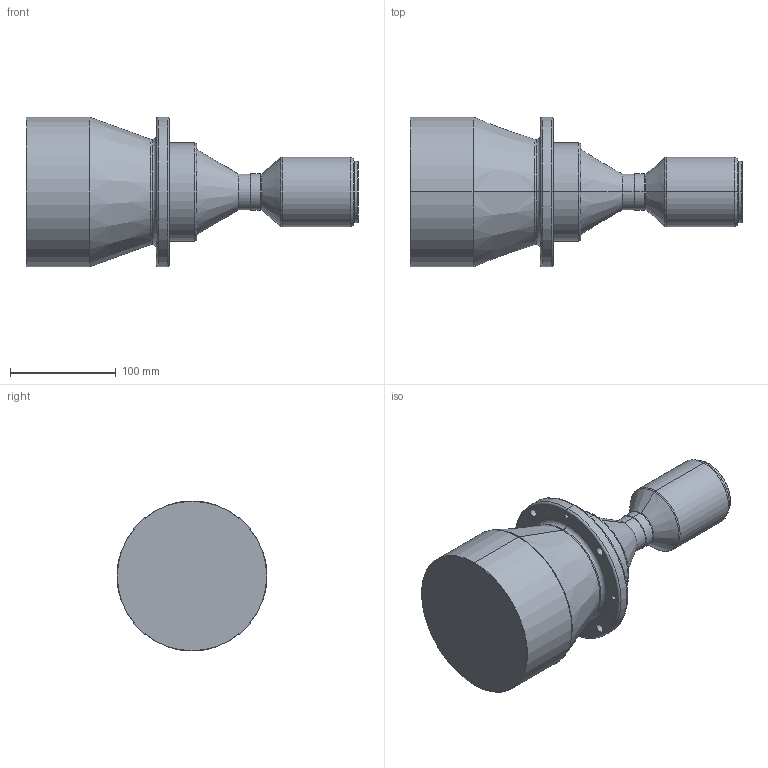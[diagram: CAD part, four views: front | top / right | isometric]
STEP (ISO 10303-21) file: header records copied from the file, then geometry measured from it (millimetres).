
FILE_DESCRIPTION (( 'STEP AP203' ), '1' );
FILE_NAME ('DTCM430H-100H-M58-AL.STEP', '2021-03-15T02:59:21', ( 'Windows User' ), ( 'P R C' ), 'SwSTEP 2.0', 'SolidWorks 2017', '' );
FILE_SCHEMA (( 'CONFIG_CONTROL_DESIGN' ));
Length unit declared in the file: millimetre
Products named in the file (1): DTCM430H-100H-M58-AL
Bounding box: 314.3 x 142 x 142 mm (x, y, z)
Volume: 2439067.3 mm3; surface area: 132206.9 mm2
Topology: 1 solids, 1 shells, 73 faces, 160 edges, 96 vertices
Faces by surface type: cylinder 34, cone 16, torus 14, plane 9
Entity records: 2137 total; most frequent: DIRECTION 418, CARTESIAN_POINT 330, ORIENTED_EDGE 320, AXIS2_PLACEMENT_3D 184, EDGE_CURVE 160, CIRCLE 110, EDGE_LOOP 96, VERTEX_POINT 96
